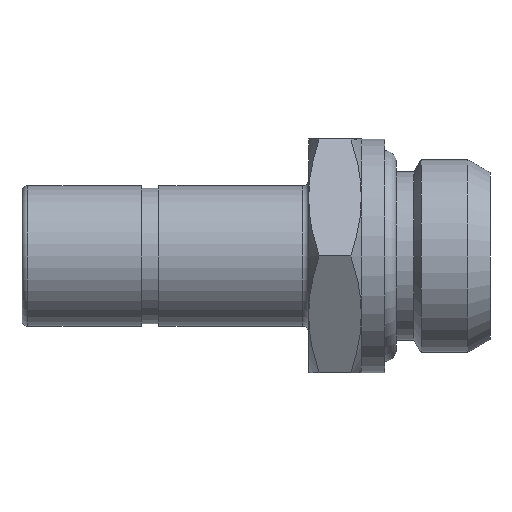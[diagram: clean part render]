
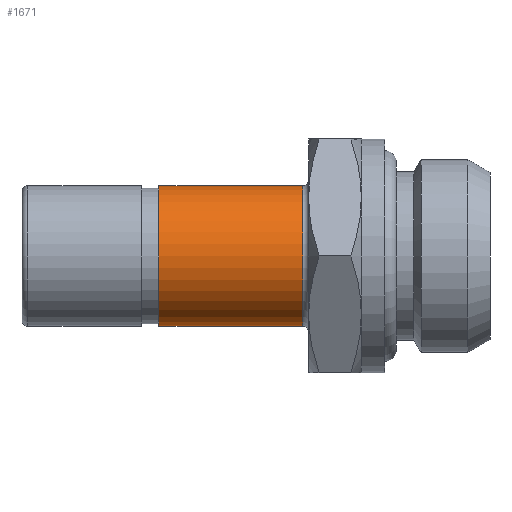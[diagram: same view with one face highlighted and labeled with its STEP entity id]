
A CAD part, left-side view. The second image highlights one B-rep face of the part: STEP entity #1671.
In plain terms, the highlighted cylindrical face has radius 6 mm (diameter 12 mm), a partial arc.
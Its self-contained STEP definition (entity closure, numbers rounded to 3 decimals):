
#11 = DIRECTION ( 'NONE',  ( 0., 0., 1. ) ) ;
#21 = VECTOR ( 'NONE', #1637, 1000. ) ;
#65 = CARTESIAN_POINT ( 'NONE',  ( 0., -9., -6. ) ) ;
#197 = ORIENTED_EDGE ( 'NONE', *, *, #202, .T. ) ;
#200 = CARTESIAN_POINT ( 'NONE',  ( 0., 19.3, 0. ) ) ;
#202 = EDGE_CURVE ( 'NONE', #1138, #2029, #2325, .T. ) ;
#370 = EDGE_LOOP ( 'NONE', ( #2069, #197, #544, #910 ) ) ;
#544 = ORIENTED_EDGE ( 'NONE', *, *, #1593, .T. ) ;
#551 = LINE ( 'NONE', #65, #21 ) ;
#812 = CARTESIAN_POINT ( 'NONE',  ( 0., -9., 6. ) ) ;
#827 = CYLINDRICAL_SURFACE ( 'NONE', #1849, 6. ) ;
#910 = ORIENTED_EDGE ( 'NONE', *, *, #2201, .T. ) ;
#916 = VECTOR ( 'NONE', #1190, 1000. ) ;
#1066 = CARTESIAN_POINT ( 'NONE',  ( 0., 7., 6. ) ) ;
#1138 = VERTEX_POINT ( 'NONE', #1426 ) ;
#1165 = DIRECTION ( 'NONE',  ( 0., -1., 0. ) ) ;
#1180 = DIRECTION ( 'NONE',  ( 0., 1., 0. ) ) ;
#1190 = DIRECTION ( 'NONE',  ( 0., -1., 0. ) ) ;
#1193 = VERTEX_POINT ( 'NONE', #1066 ) ;
#1281 = CARTESIAN_POINT ( 'NONE',  ( 0., -9., 0. ) ) ;
#1426 = CARTESIAN_POINT ( 'NONE',  ( 0., 19.3, 6. ) ) ;
#1475 = CARTESIAN_POINT ( 'NONE',  ( 0., 19.3, -6. ) ) ;
#1593 = EDGE_CURVE ( 'NONE', #2029, #2039, #551, .T. ) ;
#1637 = DIRECTION ( 'NONE',  ( 0., -1., 0. ) ) ;
#1671 = ADVANCED_FACE ( 'NONE', ( #2073 ), #827, .T. ) ;
#1749 = CIRCLE ( 'NONE', #2293, 6. ) ;
#1849 = AXIS2_PLACEMENT_3D ( 'NONE', #1281, #2224, #2037 ) ;
#1855 = EDGE_CURVE ( 'NONE', #1138, #1193, #1931, .T. ) ;
#1931 = LINE ( 'NONE', #812, #916 ) ;
#2029 = VERTEX_POINT ( 'NONE', #1475 ) ;
#2037 = DIRECTION ( 'NONE',  ( 0., 0., -1. ) ) ;
#2039 = VERTEX_POINT ( 'NONE', #2263 ) ;
#2069 = ORIENTED_EDGE ( 'NONE', *, *, #1855, .F. ) ;
#2073 = FACE_OUTER_BOUND ( 'NONE', #370, .T. ) ;
#2201 = EDGE_CURVE ( 'NONE', #2039, #1193, #1749, .T. ) ;
#2224 = DIRECTION ( 'NONE',  ( 0., -1., 0. ) ) ;
#2263 = CARTESIAN_POINT ( 'NONE',  ( 0., 7., -6. ) ) ;
#2293 = AXIS2_PLACEMENT_3D ( 'NONE', #2316, #1180, #11 ) ;
#2316 = CARTESIAN_POINT ( 'NONE',  ( 0., 7., 0. ) ) ;
#2325 = CIRCLE ( 'NONE', #2360, 6. ) ;
#2360 = AXIS2_PLACEMENT_3D ( 'NONE', #200, #1165, #2494 ) ;
#2494 = DIRECTION ( 'NONE',  ( 0., 0., -1. ) ) ;
